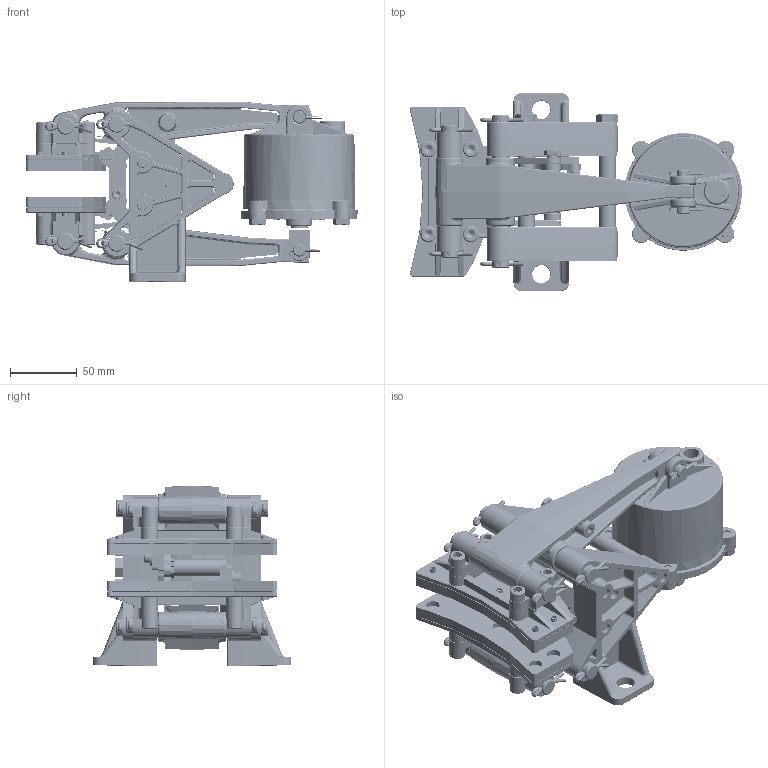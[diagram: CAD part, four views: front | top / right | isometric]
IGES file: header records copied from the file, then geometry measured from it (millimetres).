
Start section: SolidWorks IGES file using analytic representation for surfaces
Global section: file name: N:\3.Product\5000\models for website\5019-AW.IGS; native system: SolidWorks 2015; preprocessor: SolidWorks 2015; author: borica; date: 160503.122951; units: inch
Bounding box: 248.03 x 148.16 x 135 mm (x, y, z)
Surface area: 283093 mm2 (no closed solid volume)
Topology: 0 solids, 0 shells, 2639 faces, 32238 edges, 32178 vertices
Faces by surface type: bspline 1565, revolution 1074
